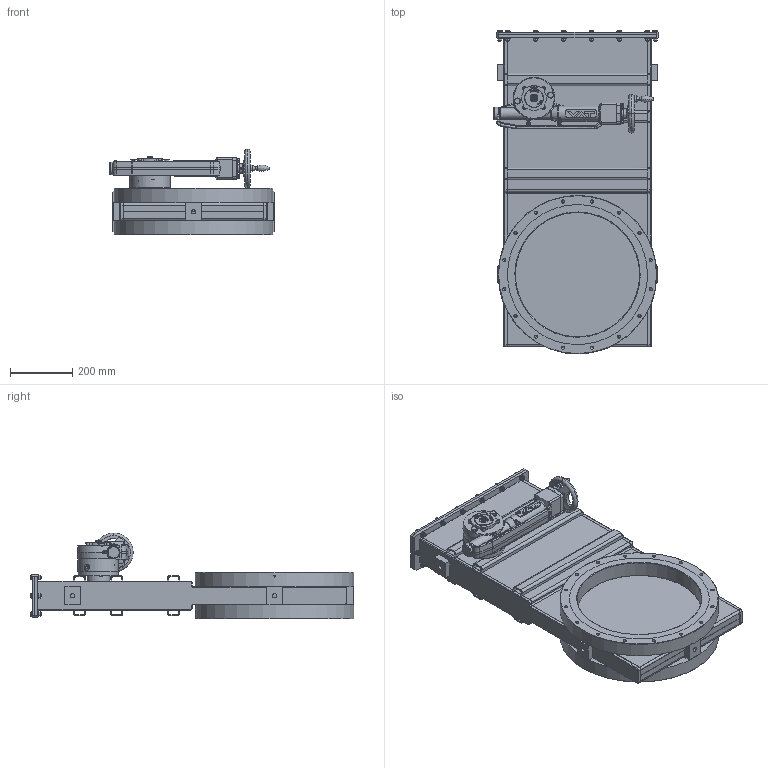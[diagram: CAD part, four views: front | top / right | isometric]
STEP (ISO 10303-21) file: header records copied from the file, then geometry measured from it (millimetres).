
FILE_DESCRIPTION(/* description */ (''),/* implementation_level */ '2;1');
FILE_NAME(/* name */ '1027713686_203.stp',/* time_stamp */ '2015-08-31T16:58:01+02:00',/* author */ (''),/* organization */ (''),/* preprocessor_version */ 'ST-DEVELOPER v15',/* originating_system */ 'SIEMENS PLM Software NX 9.0',/* authorisation */ '');
FILE_SCHEMA (('AP203_CONFIGURATION_CONTROLLED_3D_DESIGN_OF_MECHANICAL_PARTS_AND_ASSEMBLIES_MIM_LF { 1 0 10303 403 2 1 2}'));
Products named in the file (42): 212392; 212406; 212368.4_22897ID; 212368.4_22895ID; 212368.4_22894ID; 212368.4; 212368.4_22892ID; 212363.2_22890ID; 212363.2_22889ID; N-6251-225.1; 219925_1.1; 219930_1.1; N-6203-042.1; N-6200-030.1; N-6113-172.1; N-6251-223.1; 51747-01.2; 93518-01.1; 93517-01.2; 215241.3; 217292.4_22871ID; 217292.4_22885ID; 217307.4; 47652-r1.1; n-6160-412; n-6131-414; n-6097-146.1; n-5021-552.1; N-6160-411.1; n-6053-412.2; n-5021-498.1; 49323-01.1; 49362-01.1; 222698.4; 222955.1; 222684.1; 87336-01.1; 93515-R1.5; 230294; 215243_MODEL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
Assembly tree (110 placements, depth 5):
  390744
    87336-01.1
    215439.12
      217307.4  x5
      217292.4_22885ID
      217292.4_22871ID
      215241.3
      215243_MODEL
        230294
          212363.2_22889ID
          212363.2_22890ID
          212368.4_22892ID
          212368.4  x2
          212368.4_22894ID
          212368.4_22895ID
          212368.4_22897ID
          212406  x2
          212392
    222684.1
    222955.1
    222698.4
    49362-01.1
    49323-01.1
    n-5021-498.1  x18
    n-6053-412.2  x14
    N-6160-411.1  x4
    n-5021-552.1  x2
    n-6097-146.1
    n-6131-414  x28
    n-6160-412  x2
    47652-r1.1
    93515-R1.5
      93517-01.2
      93518-01.1
      51747-01.2
      N-6251-223.1
      N-6113-172.1
      N-6200-030.1
      N-6203-042.1
      219930_1.1
      219925_1.1  x2
      N-6251-225.1
Bounding box: 529.75 x 1041.84 x 276.5 mm (x, y, z)
Volume: 20942772.7 mm3; surface area: 3745945.2 mm2
Topology: 149 solids, 149 shells, 2207 faces, 5024 edges, 3161 vertices
Faces by surface type: plane 1024, cylinder 608, cone 269, bspline 181, torus 54, revolution 38, extrusion 21, sphere 12
Full cylindrical faces by diameter (mm): 1.25 x1, 2.5 x1, 3.3 x4, 3.5 x2, 4 x5, 5 x6, 5.2 x2, 5.25 x2, 6 x5, 6.66 x18, 6.7 x18, 6.8 x1, 8 x50, 8.3 x1, 8.36 x2, 8.4 x30, 8.5 x1, 8.566 x1, 9 x38, 9.728 x1, 10 x6, 10.3 x32, 10.8 x4, 12.117 x18, 13.971 x1, 14 x5, 14.009 x2, 15.933 x2, 16 x29, 17 x4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
Entity records: 56139 total; most frequent: CARTESIAN_POINT 16801, DIRECTION 5985, ORIENTED_EDGE 5872, EDGE_CURVE 2936, AXIS2_PLACEMENT_3D 2380, VERTEX_POINT 2092, EDGE_LOOP 1968, ADVANCED_FACE 1391
